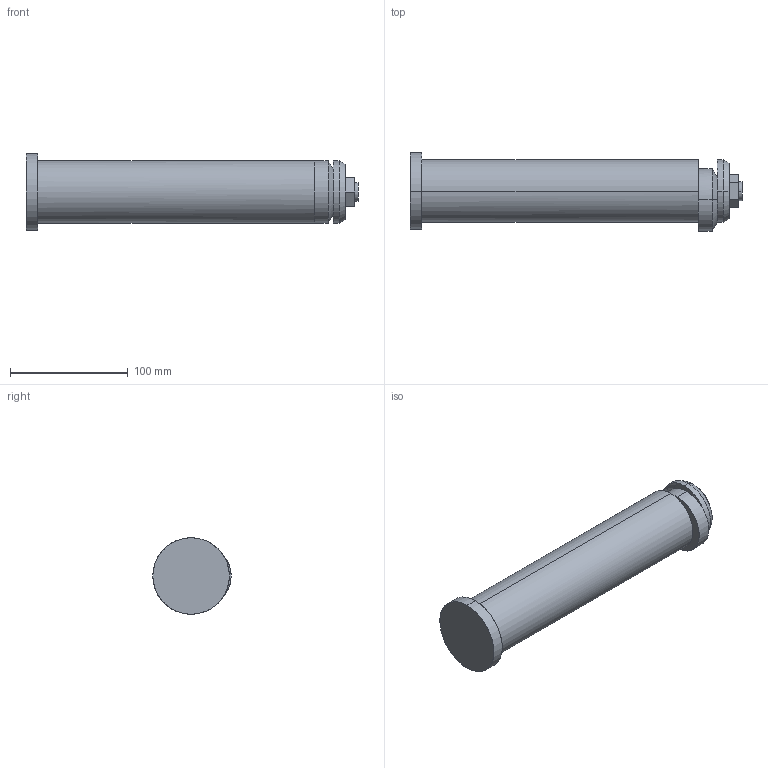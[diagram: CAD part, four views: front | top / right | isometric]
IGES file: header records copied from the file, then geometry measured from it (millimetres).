
Start section: START RECORD GO HERE.
Global section: file name: 395PSF-4.igs; native system: DASSAULT SYSTEMES CATIA V5 R20 - www.3ds.com; preprocessor: CATIA Version 5 Release 20 ; author: Utente; organization: NB04-ASUS; date: 20200409.225129; units: millimetre
Bounding box: 282 x 66.5 x 65 mm (x, y, z)
Surface area: 59041 mm2 (no closed solid volume)
Topology: 0 solids, 0 shells, 34 faces, 144 edges, 144 vertices
Faces by surface type: revolution 18, extrusion 16
